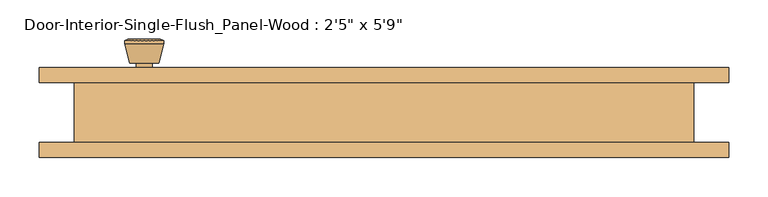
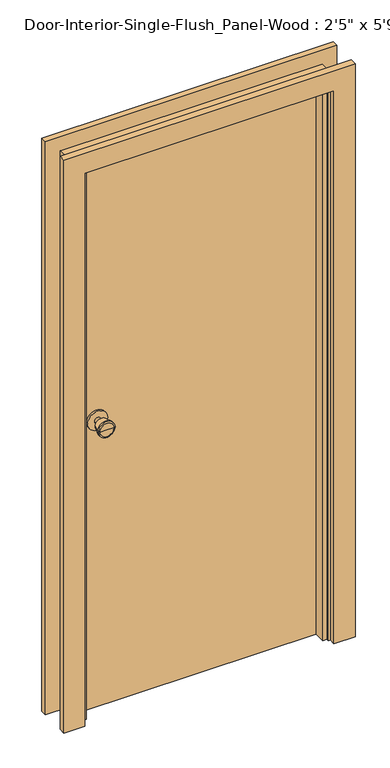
"""IFC4 building model written with IfcOpenShell, lengths in millimetres: door geometry."""

from ifc_helpers import new_model, si_unit, point, frame, frame_2d, origin, origin_with_axes, place, context, project, spatial, polyline, circle_curve, trimmed, segment, composite_curve, outline, extrude, faceted_brep, source, transform, mapped, element, save
from ifc_brep_helpers import plane_surface, cylinder_surface, revolved_surface, advanced_brep


def door_98bb46f0(model_context):
    return source(origin(), model_context, "Body", "SolidModel", [
        advanced_brep(
        [(-304.8, -6.0, 914.4), (-294.8, -6.0, 914.4), (-314.8, -6.0, 914.4), (-284.3241324, -55.0, 914.4), (-304.8, -55.0, 914.4), (-325.2758676, -55.0, 914.4), (-279.8, -53.1721319, 914.4), (-329.8, -53.1721319, 914.4), (-279.8, -49.7084537, 914.4), (-329.8, -49.7084537, 914.4), (-286.163764, -25.0, 914.4), (-323.436236, -25.0, 914.4), (-294.8, -25.0, 914.4), (-314.8, -25.0, 914.4)],
        [
            (0, 1),
            (1, 2, circle_curve(frame((-304.8, -6.0, 914.4), z_axis=(0.0, 1.0, 0.0), x_axis=(-1.0, 0.0, 0.0)), 10.0)),
            (2, 0),
            (2, 1, circle_curve(frame((-304.8, -6.0, 914.4), z_axis=(0.0, 1.0, 0.0), x_axis=(-1.0, 0.0, 0.0)), 10.0)),
            (3, 4),
            (4, 5),
            (5, 3, circle_curve(frame((-304.8, -55.0, 914.4), z_axis=(0.0, -1.0, 0.0), x_axis=(-1.0, 0.0, 0.0)), 20.4758676)),
            (3, 5, circle_curve(frame((-304.8, -55.0, 914.4), z_axis=(0.0, -1.0, 0.0), x_axis=(-1.0, 0.0, 0.0)), 20.4758676)),
            (6, 3),
            (5, 7),
            (7, 6, circle_curve(frame((-304.8, -53.1721319, 914.4), z_axis=(0.0, -1.0, 0.0), x_axis=(-1.0, 0.0, 0.0)), 25.0)),
            (6, 7, circle_curve(frame((-304.8, -53.1721319, 914.4), z_axis=(0.0, -1.0, 0.0), x_axis=(-1.0, 0.0, 0.0)), 25.0)),
            (8, 6),
            (7, 9),
            (9, 8, circle_curve(frame((-304.8, -49.7084537, 914.4), z_axis=(0.0, -1.0, 0.0), x_axis=(-1.0, 0.0, 0.0)), 25.0)),
            (8, 9, circle_curve(frame((-304.8, -49.7084537, 914.4), z_axis=(0.0, -1.0, 0.0), x_axis=(-1.0, 0.0, 0.0)), 25.0)),
            (10, 8),
            (9, 11),
            (11, 10, circle_curve(frame((-304.8, -25.0, 914.4), z_axis=(0.0, -1.0, 0.0), x_axis=(-1.0, 0.0, 0.0)), 18.636236)),
            (10, 11, circle_curve(frame((-304.8, -25.0, 914.4), z_axis=(0.0, -1.0, 0.0), x_axis=(-1.0, 0.0, 0.0)), 18.636236)),
            (12, 10),
            (11, 13),
            (13, 12, circle_curve(frame((-304.8, -25.0, 914.4), z_axis=(0.0, -1.0, 0.0), x_axis=(-1.0, 0.0, 0.0)), 10.0)),
            (12, 13, circle_curve(frame((-304.8, -25.0, 914.4), z_axis=(0.0, -1.0, 0.0), x_axis=(-1.0, 0.0, 0.0)), 10.0)),
            (1, 12),
            (13, 2),
        ],
        [
            plane_surface(frame((-304.8, -6.0, 914.4), z_axis=(0.0, 1.0, 0.0), x_axis=(-1.0, 0.0, 0.0))),
            plane_surface(frame((-304.8, -55.0, 914.4), z_axis=(0.0, -1.0, 0.0), x_axis=(-1.0, 0.0, 0.0))),
            revolved_surface(polyline([(-325.2758676, -55.0, 914.4), (-329.8, -53.1721319, 914.4)]), (-304.8, -6.0, 914.4), (0.0, 1.0, 0.0)),
            cylinder_surface(frame((-304.8, -6.0, 914.4), z_axis=(0.0, 1.0, 0.0), x_axis=(-1.0, 0.0, 0.0)), 25.0),
            revolved_surface(polyline([(-329.8, -49.7084537, 914.4), (-323.436236, -25.0, 914.4)]), (-304.8, -6.0, 914.4), (0.0, 1.0, 0.0)),
            plane_surface(frame((-304.8, -25.0, 914.4), z_axis=(0.0, 1.0, 0.0), x_axis=(-1.0, 0.0, 0.0))),
            cylinder_surface(frame((-304.8, -6.0, 914.4), z_axis=(0.0, 1.0, 0.0), x_axis=(-1.0, 0.0, 0.0)), 10.0),
        ],
        [
            (0, [[1, 2, 3]]),
            (0, [[-3, 4, -1]]),
            (1, [[5, 6, 7]]),
            (1, [[-6, -5, 8]]),
            (2, [[9, -7, 10, 11]]),
            (2, [[-10, -8, -9, 12]]),
            (3, [[13, -11, 14, 15]]),
            (3, [[-14, -12, -13, 16]]),
            (4, [[17, -15, 18, 19]]),
            (4, [[-18, -16, -17, 20]]),
            (5, [[21, -19, 22, 23]]),
            (5, [[-22, -20, -21, 24]]),
            (6, [[25, -23, 26, -2]]),
            (6, [[-26, -24, -25, -4]]),
        ],
    ),
        extrude(outline(composite_curve([segment(trimmed(circle_curve(frame_2d((914.4, -304.8)), 30.0), [point((914.4, -334.8))], [point((914.4, -274.8))], False, "CARTESIAN"), True, "CONTINUOUS"), segment(trimmed(circle_curve(frame_2d((914.4, -304.8)), 30.0), [point((914.4, -274.8))], [point((914.4, -334.8))], False, "CARTESIAN"), True, "CONTINUOUS")], self_intersect=False)), frame((0.0, -6.0, 0.0), z_axis=(0.0, 1.0, 0.0), x_axis=(0.0, 0.0, 1.0)), (0.0, 0.0, 1.0), 6.0),
        advanced_brep(
        [(-304.8, 40.925, 914.4), (-314.8, 40.925, 914.4), (-294.8, 40.925, 914.4), (-284.3241324, 89.925, 914.4), (-325.2758676, 89.925, 914.4), (-304.8, 89.925, 914.4), (-279.8, 88.0971319, 914.4), (-329.8, 88.0971319, 914.4), (-279.8, 84.6334537, 914.4), (-329.8, 84.6334537, 914.4), (-286.163764, 59.925, 914.4), (-323.436236, 59.925, 914.4), (-294.8, 59.925, 914.4), (-314.8, 59.925, 914.4)],
        [
            (0, 1),
            (1, 2, circle_curve(frame((-304.8, 40.925, 914.4), z_axis=(0.0, -1.0, 0.0), x_axis=(-1.0, 0.0, 0.0)), 10.0)),
            (2, 0),
            (2, 1, circle_curve(frame((-304.8, 40.925, 914.4), z_axis=(0.0, -1.0, 0.0), x_axis=(-1.0, 0.0, 0.0)), 10.0)),
            (3, 4, circle_curve(frame((-304.8, 89.925, 914.4), z_axis=(0.0, 1.0, 0.0), x_axis=(-1.0, 0.0, 0.0)), 20.4758676)),
            (4, 5),
            (5, 3),
            (4, 3, circle_curve(frame((-304.8, 89.925, 914.4), z_axis=(0.0, 1.0, 0.0), x_axis=(-1.0, 0.0, 0.0)), 20.4758676)),
            (6, 7, circle_curve(frame((-304.8, 88.0971319, 914.4), z_axis=(0.0, 1.0, 0.0), x_axis=(-1.0, 0.0, 0.0)), 25.0)),
            (7, 4),
            (3, 6),
            (7, 6, circle_curve(frame((-304.8, 88.0971319, 914.4), z_axis=(0.0, 1.0, 0.0), x_axis=(-1.0, 0.0, 0.0)), 25.0)),
            (8, 9, circle_curve(frame((-304.8, 84.6334537, 914.4), z_axis=(0.0, 1.0, 0.0), x_axis=(-1.0, 0.0, 0.0)), 25.0)),
            (9, 7),
            (6, 8),
            (9, 8, circle_curve(frame((-304.8, 84.6334537, 914.4), z_axis=(0.0, 1.0, 0.0), x_axis=(-1.0, 0.0, 0.0)), 25.0)),
            (10, 11, circle_curve(frame((-304.8, 59.925, 914.4), z_axis=(0.0, 1.0, 0.0), x_axis=(-1.0, 0.0, 0.0)), 18.636236)),
            (11, 9),
            (8, 10),
            (11, 10, circle_curve(frame((-304.8, 59.925, 914.4), z_axis=(0.0, 1.0, 0.0), x_axis=(-1.0, 0.0, 0.0)), 18.636236)),
            (12, 13, circle_curve(frame((-304.8, 59.925, 914.4), z_axis=(0.0, 1.0, 0.0), x_axis=(-1.0, 0.0, 0.0)), 10.0)),
            (13, 11),
            (10, 12),
            (13, 12, circle_curve(frame((-304.8, 59.925, 914.4), z_axis=(0.0, 1.0, 0.0), x_axis=(-1.0, 0.0, 0.0)), 10.0)),
            (1, 13),
            (12, 2),
        ],
        [
            plane_surface(frame((-304.8, 40.925, 914.4), z_axis=(0.0, -1.0, 0.0), x_axis=(-1.0, 0.0, 0.0))),
            plane_surface(frame((-304.8, 89.925, 914.4), z_axis=(0.0, 1.0, 0.0), x_axis=(-1.0, 0.0, 0.0))),
            revolved_surface(polyline([(-325.2758676, 89.925, 914.4), (-329.8, 88.0971319, 914.4)]), (-304.8, 40.925, 914.4), (0.0, -1.0, 0.0)),
            cylinder_surface(frame((-304.8, 40.925, 914.4), z_axis=(0.0, -1.0, 0.0), x_axis=(-1.0, 0.0, 0.0)), 25.0),
            revolved_surface(polyline([(-329.8, 84.6334537, 914.4), (-323.436236, 59.925, 914.4)]), (-304.8, 40.925, 914.4), (0.0, -1.0, 0.0)),
            plane_surface(frame((-304.8, 59.925, 914.4), z_axis=(0.0, -1.0, 0.0), x_axis=(-1.0, 0.0, 0.0))),
            cylinder_surface(frame((-304.8, 40.925, 914.4), z_axis=(0.0, -1.0, 0.0), x_axis=(-1.0, 0.0, 0.0)), 10.0),
        ],
        [
            (0, [[1, 2, 3]]),
            (0, [[-3, 4, -1]]),
            (1, [[5, 6, 7]]),
            (1, [[8, -7, -6]]),
            (2, [[9, 10, -5, 11]]),
            (2, [[12, -11, -8, -10]]),
            (3, [[13, 14, -9, 15]]),
            (3, [[16, -15, -12, -14]]),
            (4, [[17, 18, -13, 19]]),
            (4, [[20, -19, -16, -18]]),
            (5, [[21, 22, -17, 23]]),
            (5, [[24, -23, -20, -22]]),
            (6, [[-2, 25, -21, 26]]),
            (6, [[-4, -26, -24, -25]]),
        ],
    ),
        extrude(outline(composite_curve([segment(trimmed(circle_curve(frame_2d((914.4, -304.8)), 30.0), [point((914.4, -334.8))], [point((914.4, -274.8))], False, "CARTESIAN"), True, "CONTINUOUS"), segment(trimmed(circle_curve(frame_2d((914.4, -304.8)), 30.0), [point((914.4, -274.8))], [point((914.4, -334.8))], False, "CARTESIAN"), True, "CONTINUOUS")], self_intersect=False)), frame((0.0, 34.925, 0.0), z_axis=(0.0, 1.0, 0.0), x_axis=(0.0, 0.0, 1.0)), (0.0, 0.0, 1.0), 6.0),
        extrude(outline(polyline([(368.3, 0.0), (-368.3, 0.0), (-368.3, 34.925), (368.3, 34.925), (368.3, 0.0)])), origin_with_axes(), (0.0, 0.0, 1.0), 1752.6),
        faceted_brep([(393.7, 34.925, 0.0), (393.7, -41.275, 0.0), (368.3, -41.275, 0.0), (368.3, -34.925, 0.0), (355.6, -34.925, 0.0), (355.6, 0.0, 0.0), (368.3, 0.0, 0.0), (368.3, 34.925, 0.0), (393.7, 34.925, 1778.0), (393.7, -41.275, 1778.0), (-393.7, -41.275, 1778.0), (-393.7, -41.275, 0.0), (-368.3, -41.275, 0.0), (-368.3, -41.275, 1752.6), (368.3, -41.275, 1752.6), (368.3, -34.925, 1752.6), (-368.3, -34.925, 1752.6), (-368.3, -34.925, 0.0), (-355.6, -34.925, 0.0), (-355.6, -34.925, 1739.9), (355.6, -34.925, 1739.9), (355.6, 0.0, 1739.9), (-355.6, 0.0, 1739.9), (-355.6, 0.0, 0.0), (-368.3, 0.0, 0.0), (-368.3, 0.0, 1752.6), (368.3, 0.0, 1752.6), (368.3, 34.925, 1752.6), (-368.3, 34.925, 1752.6), (-368.3, 34.925, 0.0), (-393.7, 34.925, 0.0), (-393.7, 34.925, 1778.0)], [[[0, 1, 2, 3, 4, 5, 6, 7]], [[1, 0, 8, 9]], [[2, 1, 9, 10, 11, 12, 13, 14]], [[3, 2, 14, 15]], [[4, 3, 15, 16, 17, 18, 19, 20]], [[5, 4, 20, 21]], [[6, 5, 21, 22, 23, 24, 25, 26]], [[7, 6, 26, 27]], [[0, 7, 27, 28, 29, 30, 31, 8]], [[9, 8, 31, 10]], [[15, 14, 13, 16]], [[21, 20, 19, 22]], [[27, 26, 25, 28]], [[30, 29, 24, 23, 18, 17, 12, 11]], [[10, 31, 30, 11]], [[16, 13, 12, 17]], [[22, 19, 18, 23]], [[28, 25, 24, 29]]]),
        extrude(outline(polyline([(0.0, 374.65), (0.0, 438.15), (1822.45, 438.15), (1822.45, -438.15), (0.0, -438.15), (0.0, -374.65), (1758.95, -374.65), (1758.95, 374.65), (0.0, 374.65)])), frame((0.0, -60.325, 0.0), z_axis=(0.0, 1.0, 0.0), x_axis=(0.0, 0.0, 1.0)), (0.0, 0.0, 1.0), 19.05),
        extrude(outline(polyline([(0.0, 374.65), (0.0, 438.15), (1822.45, 438.15), (1822.45, -438.15), (0.0, -438.15), (0.0, -374.65), (1758.95, -374.65), (1758.95, 374.65), (0.0, 374.65)])), frame((0.0, 34.925, 0.0), z_axis=(0.0, 1.0, 0.0), x_axis=(0.0, 0.0, 1.0)), (0.0, 0.0, 1.0), 19.05),
    ])


if __name__ == "__main__":
    model = new_model("IFC4")
    model_context = context("Model", 3, world=origin())
    ifc_project = project(units=[si_unit("LENGTHUNIT", "METRE", prefix="MILLI")], contexts=[model_context])
    site = spatial("IfcSite", under=ifc_project)
    building = spatial("IfcBuilding", under=site)
    placement = place(None, origin())
    door_shape = door_98bb46f0(model_context)
    element("IfcDoor", 1, ObjectType="Door-Interior-Single-Flush_Panel-Wood : 2'5\" x 5'9\"", at=placement, inside=building, context=model_context, shape_type="MappedRepresentation", body=[
        mapped(door_shape, transform((0.0, 0.0, 0.0), x_axis=(1.0, 0.0, 0.0), y_axis=(0.0, 1.0, 0.0), z_axis=(0.0, 0.0, 1.0))),
    ])
    save(model, "model.ifc")
